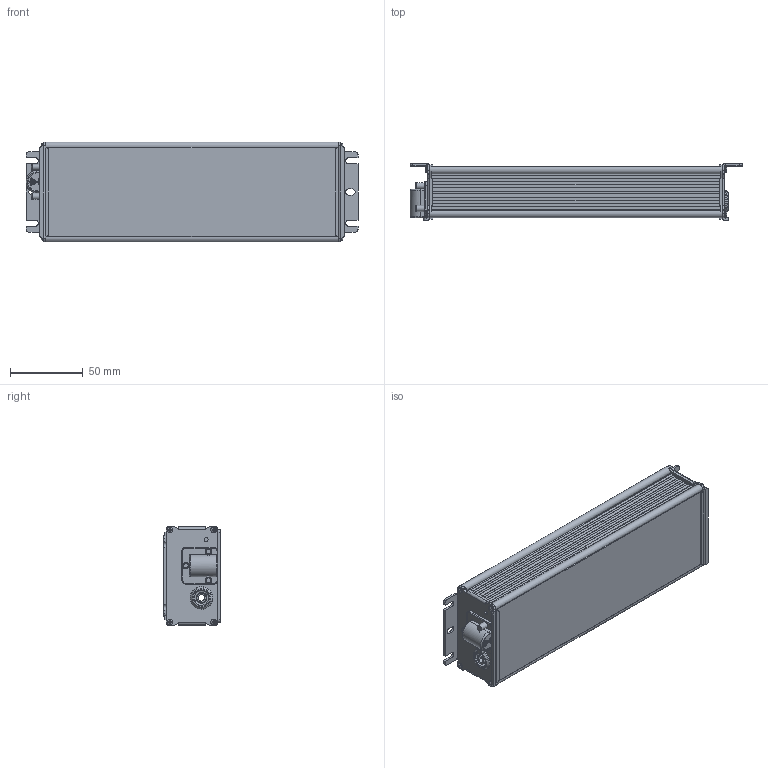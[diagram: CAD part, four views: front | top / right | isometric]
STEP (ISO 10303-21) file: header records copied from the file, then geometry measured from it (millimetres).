
FILE_DESCRIPTION(('Creo Elements/Direct Modeling STEP Export'),'2;1');
FILE_NAME('3D_M71.stp','2019-07-09T 8:09:34',(''),(''),'PTC Creo Elements/Direct Modeling STEP processor for AP214 (Solid Model)','PTC Creo Elements/Direct Modeling 19.0E 27-Jun-2016 (C) Parametric Technology GmbH','');
FILE_SCHEMA(('AUTOMOTIVE_DESIGN { 1 0 10303 214 1 1 1 1 }'));
Length unit declared in the file: millimetre
Products named in the file (2): 3D_M71
Assembly tree (1 placements, depth 2):
  3D_M71
    3D_M71
Bounding box: 227.6 x 38.6 x 68.51 mm (x, y, z)
Volume: 72596.8 mm3; surface area: 102997.8 mm2
Topology: 1 solids, 3 shells, 882 faces, 2257 edges, 1409 vertices
Faces by surface type: plane 461, cylinder 229, torus 95, cone 58, bspline 28, sphere 8, extrusion 3
Entity records: 29691 total; most frequent: CARTESIAN_POINT 5497, ORIENTED_EDGE 4486, DIRECTION 4164, EDGE_CURVE 2241, AXIS2_PLACEMENT_3D 1465, VERTEX_POINT 1409, VECTOR 1234, LINE 1231
